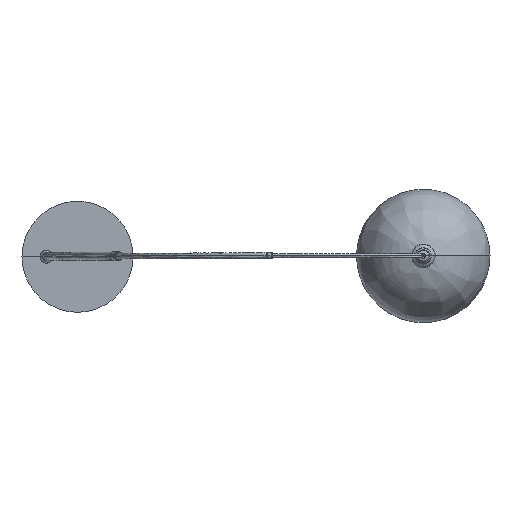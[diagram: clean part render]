
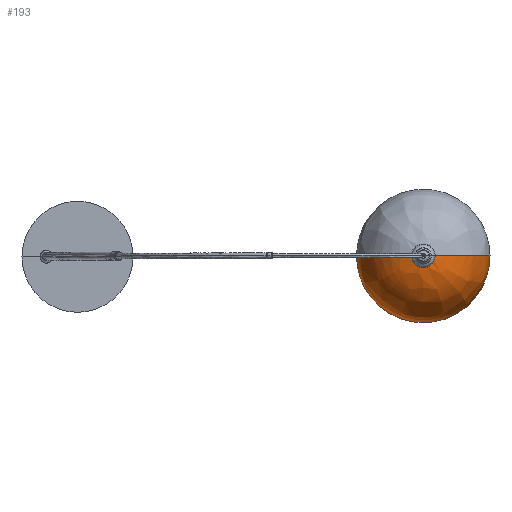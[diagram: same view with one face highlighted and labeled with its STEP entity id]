
A CAD part, top view. The second image highlights one B-rep face of the part: STEP entity #193.
In plain terms, the highlighted free-form (B-spline) face has degree [2, 2] with [5, 3] control points.
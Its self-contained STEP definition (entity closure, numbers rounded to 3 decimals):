
#193=ADVANCED_FACE('',(#359),#2184,.T.);
#359=FACE_OUTER_BOUND('',#525,.T.);
#525=EDGE_LOOP('',(#900,#901,#902));
#900=ORIENTED_EDGE('',*,*,#1367,.T.);
#901=ORIENTED_EDGE('',*,*,#1375,.F.);
#902=ORIENTED_EDGE('',*,*,#1374,.F.);
#1367=EDGE_CURVE('',#2039,#2042,#1688,.T.);
#1374=EDGE_CURVE('',#2039,#2044,#1694,.T.);
#1375=EDGE_CURVE('',#2044,#2042,#1695,.T.);
#1688=TRIMMED_CURVE($,#1870,(#4873),(#4874),.T.,.CARTESIAN.);
#1694=TRIMMED_CURVE($,#1876,(#4894),(#4895),.T.,.CARTESIAN.);
#1695=TRIMMED_CURVE($,#1877,(#4897),(#4898),.T.,.CARTESIAN.);
#1870=CIRCLE('',#2502,34.89);
#1876=CIRCLE('',#2508,34.89);
#1877=CIRCLE('',#2509,34.863);
#2039=VERTEX_POINT('',#4866);
#2042=VERTEX_POINT('',#4869);
#2044=VERTEX_POINT('',#4871);
#2184=(
BOUNDED_SURFACE()
B_SPLINE_SURFACE(2,2,((#4850,#4851,#4852),(#4853,#4854,#4855),(#4856,#4857,
#4858),(#4859,#4860,#4861),(#4862,#4863,#4864)),.UNSPECIFIED.,.F.,.F.,.F.)
B_SPLINE_SURFACE_WITH_KNOTS((3,2,3),(3,3),(109.508,164.262,
219.016),(53.436,106.872),.UNSPECIFIED.)
GEOMETRIC_REPRESENTATION_ITEM()
RATIONAL_B_SPLINE_SURFACE(((1.,0.721,1.),(0.707,
0.51,0.707),(1.,0.721,1.),(0.707,
0.51,0.707),(1.,0.721,1.)))
REPRESENTATION_ITEM('')
SURFACE()
);
#2502=AXIS2_PLACEMENT_3D($,#4872,#2844,#2845);
#2508=AXIS2_PLACEMENT_3D($,#4893,#2856,#2857);
#2509=AXIS2_PLACEMENT_3D($,#4896,#2858,#2859);
#2844=DIRECTION('',(0.,-1.,0.));
#2845=DIRECTION('',(0.,0.,1.));
#2856=DIRECTION('',(0.,1.,0.));
#2857=DIRECTION('',(0.,0.,1.));
#2858=DIRECTION('',(0.,0.,-1.));
#2859=DIRECTION('',(1.,0.,0.));
#4850=CARTESIAN_POINT('',(1840.08,879.451,119.833));
#4851=CARTESIAN_POINT('',(1873.628,879.451,119.833));
#4852=CARTESIAN_POINT('',(1874.943,879.451,86.311));
#4853=CARTESIAN_POINT('',(1840.08,879.451,119.833));
#4854=CARTESIAN_POINT('',(1873.628,845.904,119.833));
#4855=CARTESIAN_POINT('',(1874.943,844.589,86.311));
#4856=CARTESIAN_POINT('',(1840.08,879.451,119.833));
#4857=CARTESIAN_POINT('',(1840.08,845.904,119.833));
#4858=CARTESIAN_POINT('',(1840.08,844.589,86.311));
#4859=CARTESIAN_POINT('',(1840.08,879.451,119.833));
#4860=CARTESIAN_POINT('',(1806.533,845.904,119.833));
#4861=CARTESIAN_POINT('',(1805.218,844.589,86.311));
#4862=CARTESIAN_POINT('',(1840.08,879.451,119.833));
#4863=CARTESIAN_POINT('',(1806.533,879.451,119.833));
#4864=CARTESIAN_POINT('',(1805.218,879.451,86.311));
#4866=CARTESIAN_POINT('',(1840.08,879.451,119.833));
#4869=CARTESIAN_POINT('',(1805.218,879.451,86.311));
#4871=CARTESIAN_POINT('',(1874.943,879.451,86.311));
#4872=CARTESIAN_POINT('',(1840.08,879.451,84.943));
#4873=CARTESIAN_POINT('',(1840.08,879.451,119.833));
#4874=CARTESIAN_POINT('',(1805.218,879.451,86.311));
#4893=CARTESIAN_POINT('',(1840.08,879.451,84.943));
#4894=CARTESIAN_POINT('',(1840.08,879.451,119.833));
#4895=CARTESIAN_POINT('',(1874.943,879.451,86.311));
#4896=CARTESIAN_POINT('',(1840.08,879.451,86.311));
#4897=CARTESIAN_POINT('',(1874.943,879.451,86.311));
#4898=CARTESIAN_POINT('',(1805.218,879.451,86.311));
